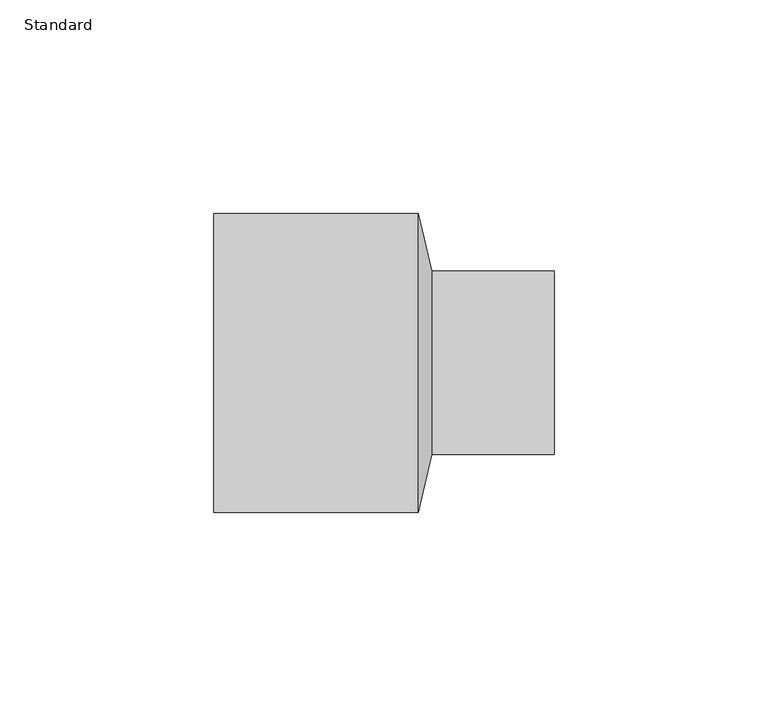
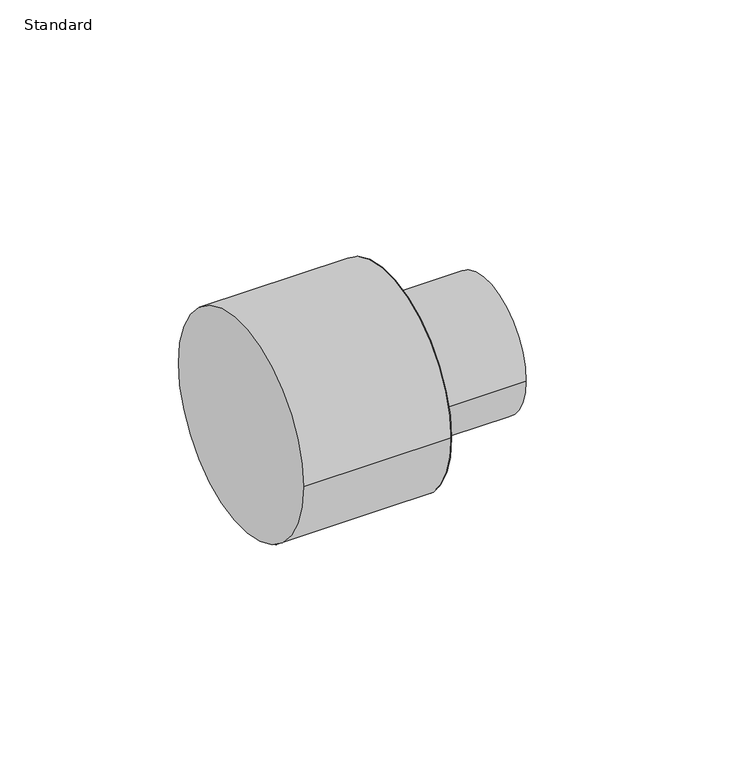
"""IFC4 building model written with IfcOpenShell, lengths in millimetres: pipe fitting geometry, M_Coupling Reducing - CPVC - Sch 40 : Standard."""

from ifc_helpers import new_model, si_unit, point, frame, origin, origin_2d, place, context, project, spatial, polyline, circle_curve, trimmed, segment, composite_curve, outline, extrude, source, transform, mapped, element, save
from ifc_brep_helpers import plane_surface, revolved_surface, advanced_brep


def standard_f1337950(model_context):
    return source(origin(), model_context, "Body", "SolidModel", [
        advanced_brep(
        [(51.096875, -21.463, 0.0), (51.096875, 21.463, 0.0), (47.921875, -34.9949219, 0.0), (47.921875, 34.9949219, 0.0)],
        [
            (0, 1, circle_curve(frame((51.096875, 0.0, 0.0), z_axis=(1.0, -4.273914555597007e-12, 0.0), x_axis=(-4.2739195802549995e-12, -1.0, 0.0)), 21.463)),
            (1, 0, circle_curve(frame((51.096875, 0.0, 0.0), z_axis=(1.0, -4.273914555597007e-12, 0.0), x_axis=(4.273919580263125e-12, 1.0, 0.0)), 21.463)),
            (2, 3, circle_curve(frame((47.921875, 0.0, 0.0), z_axis=(-1.0, 4.273914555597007e-12, 0.0), x_axis=(4.273919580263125e-12, 1.0, 0.0)), 34.9949219)),
            (3, 2, circle_curve(frame((47.921875, 0.0, 0.0), z_axis=(-1.0, 4.273914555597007e-12, 0.0), x_axis=(-4.2739195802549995e-12, -1.0, 0.0)), 34.9949219)),
            (3, 1),
            (0, 2),
        ],
        [
            plane_surface(frame((51.096875, 0.0, 0.0), z_axis=(1.0, 0.0, 0.0), x_axis=(0.0, 0.0, -1.0))),
            plane_surface(frame((47.921875, 0.0, 0.0), z_axis=(-1.0, 0.0, 0.0), x_axis=(0.0, 0.0, -1.0))),
            revolved_surface(polyline([(51.096875, -21.46300003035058, 0.0), (47.92187499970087, -34.99492190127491, 0.0)]), (56.1327469, 0.0, 0.0), (-1.0, 4.273914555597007e-12, 0.0)),
            revolved_surface(polyline([(51.09687500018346, 21.463000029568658, 0.0), (47.921875, 34.9949219, 0.0)]), (56.1327469, 0.0, 0.0), (-1.0, 4.273914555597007e-12, 0.0)),
        ],
        [
            (0, [[1, 2]]),
            (1, [[3, 4]]),
            (2, [[-4, 5, -1, 6]]),
            (3, [[-3, -6, -2, -5]]),
        ],
    ),
        extrude(outline(composite_curve([segment(trimmed(circle_curve(origin_2d(), 21.463), [point((-21.463, 0.0))], [point((21.463, 0.0))], False, "CARTESIAN"), True, "CONTINUOUS"), segment(trimmed(circle_curve(origin_2d(), 21.463), [point((21.463, 0.0))], [point((-21.463, 0.0))], False, "CARTESIAN"), True, "CONTINUOUS")], self_intersect=False)), frame((51.096875, 0.0, 0.0), z_axis=(1.0, 0.0, 0.0), x_axis=(0.0, 1.0, 0.0)), (0.0, 0.0, 1.0), 28.702),
        extrude(outline(composite_curve([segment(trimmed(circle_curve(origin_2d(), 34.9949219), [point((-34.9949219, 0.0))], [point((34.9949219, 0.0))], False, "CARTESIAN"), True, "CONTINUOUS"), segment(trimmed(circle_curve(origin_2d(), 34.9949219), [point((34.9949219, 0.0))], [point((-34.9949219, 0.0))], False, "CARTESIAN"), True, "CONTINUOUS")], self_intersect=False)), frame((0.0, 0.0, 0.0), z_axis=(1.0, 0.0, 0.0), x_axis=(0.0, 1.0, 0.0)), (0.0, 0.0, 1.0), 47.921875),
    ])


if __name__ == "__main__":
    model = new_model("IFC4")
    model_context = context("Model", 3, world=origin())
    ifc_project = project(units=[si_unit("LENGTHUNIT", "METRE", prefix="MILLI")], contexts=[model_context])
    site = spatial("IfcSite", under=ifc_project)
    building = spatial("IfcBuilding", under=site)
    placement = place(None, origin())
    standard_shape = standard_f1337950(model_context)
    element("IfcPipeFitting", 1, ObjectType="M_Coupling Reducing - CPVC - Sch 40 : Standard", at=placement, inside=building, context=model_context, shape_type="MappedRepresentation", body=[
        mapped(standard_shape, transform((0.0, 0.0, 0.0), x_axis=(1.0, 0.0, 0.0), y_axis=(0.0, 1.0, 0.0), z_axis=(0.0, 0.0, 1.0))),
    ])
    save(model, "model.ifc")
